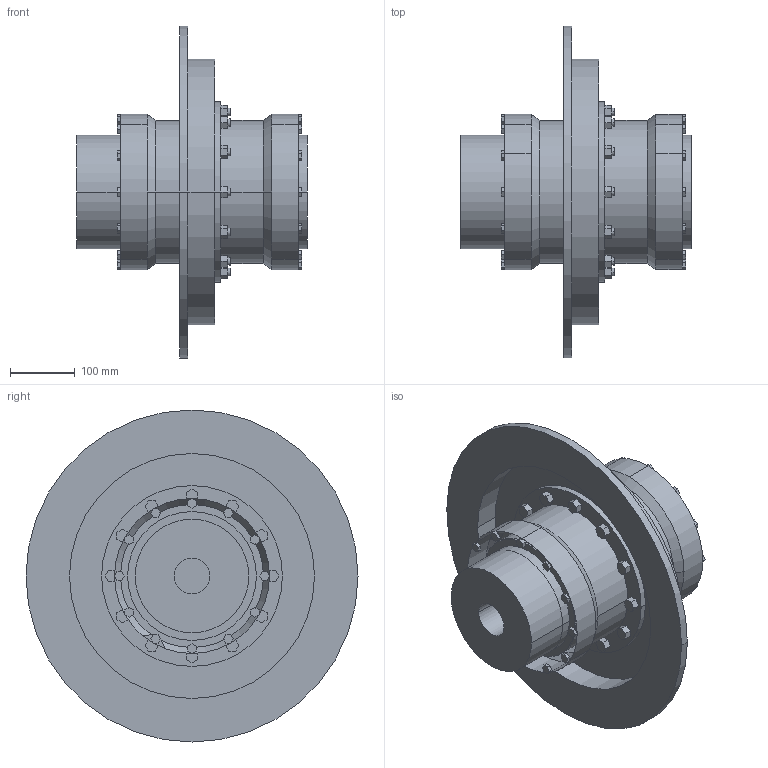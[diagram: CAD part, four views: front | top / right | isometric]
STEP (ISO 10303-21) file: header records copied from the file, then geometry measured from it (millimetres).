
FILE_DESCRIPTION((''),'2;1');
FILE_NAME('A19720100-0_ASM','2019-05-23T',('AB_Roschiwal'),('RENK AG'),'PRO/ENGINEER BY PARAMETRIC TECHNOLOGY CORPORATION, 2015440','PRO/ENGINEER BY PARAMETRIC TECHNOLOGY CORPORATION, 2015440','');
FILE_SCHEMA(('CONFIG_CONTROL_DESIGN'));
Length unit declared in the file: millimetre
Products named in the file (4): SBKT110_GEHAEUSE; SBKT110_NABE; SBKT110_BREMSSCHEIBE; A19720100-0_ASM
Assembly tree (4 placements, depth 2):
  A19720100-0_ASM
    SBKT110_GEHAEUSE
    SBKT110_NABE  x2
    SBKT110_BREMSSCHEIBE
Bounding box: 357 x 514 x 514 mm (x, y, z)
Volume: 12998814.1 mm3; surface area: 1264894.7 mm2
Topology: 4 solids, 4 shells, 470 faces, 1272 edges, 812 vertices
Faces by surface type: plane 370, cylinder 96, cone 4
Entity records: 13708 total; most frequent: CARTESIAN_POINT 2366, ORIENTED_EDGE 2304, DIRECTION 2280, EDGE_CURVE 1152, VECTOR 956, LINE 956, VERTEX_POINT 748, AXIS2_PLACEMENT_3D 662
